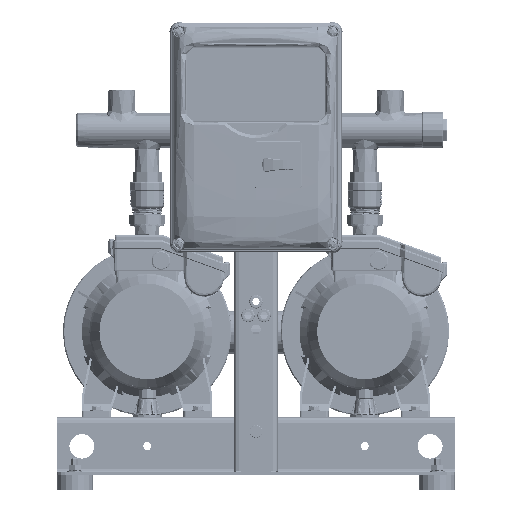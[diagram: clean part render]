
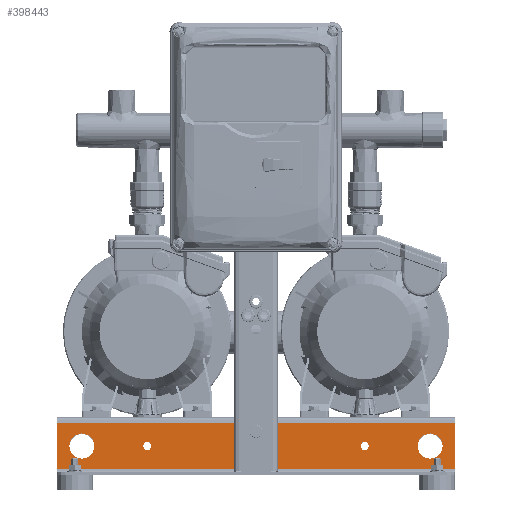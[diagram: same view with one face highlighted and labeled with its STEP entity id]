
A CAD part, top view. The second image highlights one B-rep face of the part: STEP entity #398443.
In plain terms, the highlighted planar face has unit normal (0, 0, 1) as drawn and (0, 0, -1) by its records, which use the part's own axes.
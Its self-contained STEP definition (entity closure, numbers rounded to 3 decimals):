
#392174=DIRECTION('',(1.,0.,0.));
#392175=VECTOR('',#392174,550.);
#392176=CARTESIAN_POINT('',(-275.,-8.,-150.));
#392177=LINE('',#392176,#392175);
#394404=DIRECTION('',(0.,1.,0.));
#394405=VECTOR('',#394404,64.);
#394406=CARTESIAN_POINT('',(-275.,-72.,-150.));
#394407=LINE('',#394406,#394405);
#394425=DIRECTION('',(1.,0.,0.));
#394426=VECTOR('',#394425,550.);
#394427=CARTESIAN_POINT('',(-275.,-72.,-150.));
#394428=LINE('',#394427,#394426);
#394455=DIRECTION('',(0.,1.,0.));
#394456=VECTOR('',#394455,26.);
#394457=CARTESIAN_POINT('',(-26.7,-40.,-150.));
#394458=LINE('',#394457,#394456);
#394462=DIRECTION('',(1.,0.,0.));
#394463=VECTOR('',#394462,3.6);
#394464=CARTESIAN_POINT('',(-30.3,-40.,-150.));
#394465=LINE('',#394464,#394463);
#394469=DIRECTION('',(0.,-1.,0.));
#394470=VECTOR('',#394469,26.);
#394471=CARTESIAN_POINT('',(-30.3,-14.,-150.));
#394472=LINE('',#394471,#394470);
#394476=DIRECTION('',(-1.,0.,0.));
#394477=VECTOR('',#394476,3.6);
#394478=CARTESIAN_POINT('',(-26.7,-14.,-150.));
#394479=LINE('',#394478,#394477);
#394483=DIRECTION('',(0.,1.,0.));
#394484=VECTOR('',#394483,26.);
#394485=CARTESIAN_POINT('',(30.3,-40.,-150.));
#394486=LINE('',#394485,#394484);
#394490=DIRECTION('',(1.,0.,0.));
#394491=VECTOR('',#394490,3.6);
#394492=CARTESIAN_POINT('',(26.7,-40.,-150.));
#394493=LINE('',#394492,#394491);
#394497=DIRECTION('',(0.,-1.,0.));
#394498=VECTOR('',#394497,26.);
#394499=CARTESIAN_POINT('',(26.7,-14.,-150.));
#394500=LINE('',#394499,#394498);
#394504=DIRECTION('',(-1.,0.,0.));
#394505=VECTOR('',#394504,3.6);
#394506=CARTESIAN_POINT('',(30.3,-14.,-150.));
#394507=LINE('',#394506,#394505);
#394511=CARTESIAN_POINT('',(0.,-20.,-150.));
#394512=DIRECTION('',(0.,0.,-1.));
#394513=DIRECTION('',(1.,0.,0.));
#394514=AXIS2_PLACEMENT_3D('',#394511,#394512,#394513);
#394519=CARTESIAN_POINT('',(0.,-20.,-150.));
#394520=DIRECTION('',(0.,0.,-1.));
#394521=DIRECTION('',(-1.,0.,0.));
#394522=AXIS2_PLACEMENT_3D('',#394519,#394520,#394521);
#394527=CARTESIAN_POINT('',(-240.,-40.,-150.));
#394528=DIRECTION('',(0.,0.,1.));
#394529=DIRECTION('',(-1.,0.,0.));
#394530=AXIS2_PLACEMENT_3D('',#394527,#394528,#394529);
#394535=CARTESIAN_POINT('',(-240.,-40.,-150.));
#394536=DIRECTION('',(0.,0.,1.));
#394537=DIRECTION('',(1.,0.,0.));
#394538=AXIS2_PLACEMENT_3D('',#394535,#394536,#394537);
#394543=CARTESIAN_POINT('',(240.,-40.,-150.));
#394544=DIRECTION('',(0.,0.,1.));
#394545=DIRECTION('',(-1.,0.,0.));
#394546=AXIS2_PLACEMENT_3D('',#394543,#394544,#394545);
#394551=CARTESIAN_POINT('',(240.,-40.,-150.));
#394552=DIRECTION('',(0.,0.,1.));
#394553=DIRECTION('',(1.,0.,0.));
#394554=AXIS2_PLACEMENT_3D('',#394551,#394552,#394553);
#394559=CARTESIAN_POINT('',(-150.,-40.,-150.));
#394560=DIRECTION('',(0.,0.,1.));
#394561=DIRECTION('',(1.,0.,0.));
#394562=AXIS2_PLACEMENT_3D('',#394559,#394560,#394561);
#394567=CARTESIAN_POINT('',(-150.,-40.,-150.));
#394568=DIRECTION('',(0.,0.,1.));
#394569=DIRECTION('',(-1.,0.,0.));
#394570=AXIS2_PLACEMENT_3D('',#394567,#394568,#394569);
#394575=CARTESIAN_POINT('',(150.,-40.,-150.));
#394576=DIRECTION('',(0.,0.,-1.));
#394577=DIRECTION('',(-1.,0.,0.));
#394578=AXIS2_PLACEMENT_3D('',#394575,#394576,#394577);
#394583=CARTESIAN_POINT('',(150.,-40.,-150.));
#394584=DIRECTION('',(0.,0.,-1.));
#394585=DIRECTION('',(1.,0.,0.));
#394586=AXIS2_PLACEMENT_3D('',#394583,#394584,#394585);
#394605=DIRECTION('',(0.,1.,0.));
#394606=VECTOR('',#394605,64.);
#394607=CARTESIAN_POINT('',(275.,-72.,-150.));
#394608=LINE('',#394607,#394606);
#396170=CARTESIAN_POINT('',(-275.,-72.,-150.));
#396171=CARTESIAN_POINT('',(-275.,-8.,-150.));
#396172=VERTEX_POINT('',#396170);
#396173=VERTEX_POINT('',#396171);
#396174=CARTESIAN_POINT('',(275.,-72.,-150.));
#396175=CARTESIAN_POINT('',(275.,-8.,-150.));
#396176=VERTEX_POINT('',#396174);
#396177=VERTEX_POINT('',#396175);
#396530=CARTESIAN_POINT('',(-26.7,-40.,-150.));
#396531=CARTESIAN_POINT('',(-26.7,-14.,-150.));
#396532=VERTEX_POINT('',#396530);
#396533=VERTEX_POINT('',#396531);
#396534=CARTESIAN_POINT('',(-30.3,-14.,-150.));
#396535=VERTEX_POINT('',#396534);
#396536=CARTESIAN_POINT('',(-30.3,-40.,-150.));
#396537=VERTEX_POINT('',#396536);
#396538=CARTESIAN_POINT('',(30.3,-40.,-150.));
#396539=CARTESIAN_POINT('',(30.3,-14.,-150.));
#396540=VERTEX_POINT('',#396538);
#396541=VERTEX_POINT('',#396539);
#396542=CARTESIAN_POINT('',(26.7,-14.,-150.));
#396543=VERTEX_POINT('',#396542);
#396544=CARTESIAN_POINT('',(26.7,-40.,-150.));
#396545=VERTEX_POINT('',#396544);
#396562=CARTESIAN_POINT('',(6.25,-20.,-150.));
#396563=CARTESIAN_POINT('',(-6.25,-20.,-150.));
#396564=VERTEX_POINT('',#396562);
#396565=VERTEX_POINT('',#396563);
#396586=CARTESIAN_POINT('',(-257.5,-40.,-150.));
#396587=CARTESIAN_POINT('',(-222.5,-40.,-150.));
#396588=VERTEX_POINT('',#396586);
#396589=VERTEX_POINT('',#396587);
#396590=CARTESIAN_POINT('',(222.5,-40.,-150.));
#396591=CARTESIAN_POINT('',(257.5,-40.,-150.));
#396592=VERTEX_POINT('',#396590);
#396593=VERTEX_POINT('',#396591);
#396686=CARTESIAN_POINT('',(-143.75,-40.,-150.));
#396687=CARTESIAN_POINT('',(-156.25,-40.,-150.));
#396688=VERTEX_POINT('',#396686);
#396689=VERTEX_POINT('',#396687);
#396698=CARTESIAN_POINT('',(143.75,-40.,-150.));
#396700=VERTEX_POINT('',#396698);
#396706=CARTESIAN_POINT('',(156.25,-40.,-150.));
#396708=VERTEX_POINT('',#396706);
#398381=CARTESIAN_POINT('',(-275.,-76.,-150.));
#398382=DIRECTION('',(0.,0.,-1.));
#398383=DIRECTION('',(0.,1.,0.));
#398384=AXIS2_PLACEMENT_3D('',#398381,#398382,#398383);
#398385=PLANE('',#398384);
#398386=ORIENTED_EDGE('',*,*,#398334,.F.);
#398387=ORIENTED_EDGE('',*,*,#398371,.T.);
#398389=ORIENTED_EDGE('',*,*,#398388,.T.);
#398390=ORIENTED_EDGE('',*,*,#397442,.F.);
#398391=EDGE_LOOP('',(#398386,#398387,#398389,#398390));
#398392=FACE_OUTER_BOUND('',#398391,.F.);
#398394=ORIENTED_EDGE('',*,*,#398393,.F.);
#398396=ORIENTED_EDGE('',*,*,#398395,.F.);
#398398=ORIENTED_EDGE('',*,*,#398397,.F.);
#398400=ORIENTED_EDGE('',*,*,#398399,.F.);
#398401=EDGE_LOOP('',(#398394,#398396,#398398,#398400));
#398402=FACE_BOUND('',#398401,.F.);
#398404=ORIENTED_EDGE('',*,*,#398403,.F.);
#398406=ORIENTED_EDGE('',*,*,#398405,.F.);
#398408=ORIENTED_EDGE('',*,*,#398407,.F.);
#398410=ORIENTED_EDGE('',*,*,#398409,.F.);
#398411=EDGE_LOOP('',(#398404,#398406,#398408,#398410));
#398412=FACE_BOUND('',#398411,.F.);
#398414=ORIENTED_EDGE('',*,*,#398413,.T.);
#398416=ORIENTED_EDGE('',*,*,#398415,.T.);
#398417=EDGE_LOOP('',(#398414,#398416));
#398418=FACE_BOUND('',#398417,.F.);
#398420=ORIENTED_EDGE('',*,*,#398419,.F.);
#398422=ORIENTED_EDGE('',*,*,#398421,.F.);
#398423=EDGE_LOOP('',(#398420,#398422));
#398424=FACE_BOUND('',#398423,.F.);
#398426=ORIENTED_EDGE('',*,*,#398425,.F.);
#398428=ORIENTED_EDGE('',*,*,#398427,.F.);
#398429=EDGE_LOOP('',(#398426,#398428));
#398430=FACE_BOUND('',#398429,.F.);
#398432=ORIENTED_EDGE('',*,*,#398431,.F.);
#398434=ORIENTED_EDGE('',*,*,#398433,.F.);
#398435=EDGE_LOOP('',(#398432,#398434));
#398436=FACE_BOUND('',#398435,.F.);
#398438=ORIENTED_EDGE('',*,*,#398437,.T.);
#398440=ORIENTED_EDGE('',*,*,#398439,.T.);
#398441=EDGE_LOOP('',(#398438,#398440));
#398442=FACE_BOUND('',#398441,.F.);
#394515=CIRCLE('',#394514,6.25);
#394523=CIRCLE('',#394522,6.25);
#394531=CIRCLE('',#394530,17.5);
#394539=CIRCLE('',#394538,17.5);
#394547=CIRCLE('',#394546,17.5);
#394555=CIRCLE('',#394554,17.5);
#394563=CIRCLE('',#394562,6.25);
#394571=CIRCLE('',#394570,6.25);
#394579=CIRCLE('',#394578,6.25);
#394587=CIRCLE('',#394586,6.25);
#397442=EDGE_CURVE('',#396173,#396177,#392177,.T.);
#398334=EDGE_CURVE('',#396172,#396173,#394407,.T.);
#398371=EDGE_CURVE('',#396172,#396176,#394428,.T.);
#398388=EDGE_CURVE('',#396176,#396177,#394608,.T.);
#398393=EDGE_CURVE('',#396532,#396533,#394458,.T.);
#398395=EDGE_CURVE('',#396537,#396532,#394465,.T.);
#398397=EDGE_CURVE('',#396535,#396537,#394472,.T.);
#398399=EDGE_CURVE('',#396533,#396535,#394479,.T.);
#398403=EDGE_CURVE('',#396540,#396541,#394486,.T.);
#398405=EDGE_CURVE('',#396545,#396540,#394493,.T.);
#398407=EDGE_CURVE('',#396543,#396545,#394500,.T.);
#398409=EDGE_CURVE('',#396541,#396543,#394507,.T.);
#398413=EDGE_CURVE('',#396564,#396565,#394515,.T.);
#398415=EDGE_CURVE('',#396565,#396564,#394523,.T.);
#398419=EDGE_CURVE('',#396588,#396589,#394531,.T.);
#398421=EDGE_CURVE('',#396589,#396588,#394539,.T.);
#398425=EDGE_CURVE('',#396592,#396593,#394547,.T.);
#398427=EDGE_CURVE('',#396593,#396592,#394555,.T.);
#398431=EDGE_CURVE('',#396688,#396689,#394563,.T.);
#398433=EDGE_CURVE('',#396689,#396688,#394571,.T.);
#398437=EDGE_CURVE('',#396700,#396708,#394579,.T.);
#398439=EDGE_CURVE('',#396708,#396700,#394587,.T.);
#398443=ADVANCED_FACE('',(#398392,#398402,#398412,#398418,#398424,#398430,
#398436,#398442),#398385,.T.);
